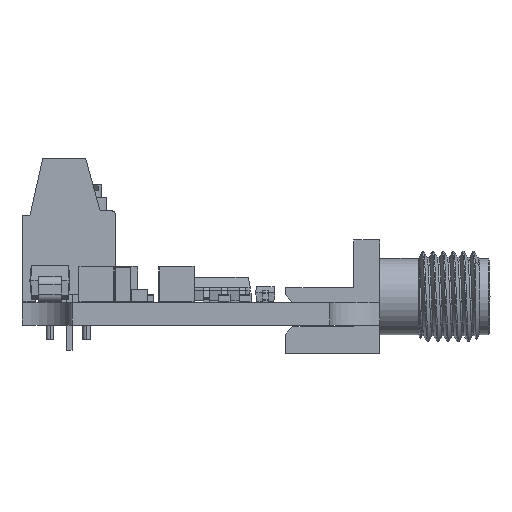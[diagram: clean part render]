
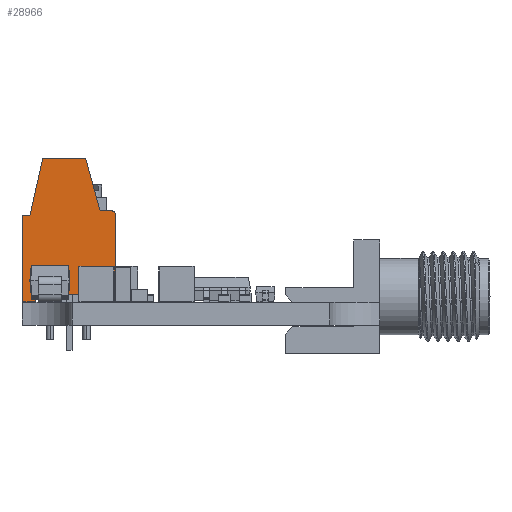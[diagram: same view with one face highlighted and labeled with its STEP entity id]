
A CAD part, left-side view. The second image highlights one B-rep face of the part: STEP entity #28966.
In plain terms, the highlighted planar face has unit normal (-1, 0, 0) as drawn and (1, 0, 0) by its records, which use the part's own axes.
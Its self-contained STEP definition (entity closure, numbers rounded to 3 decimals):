
#28966 = ADVANCED_FACE('',(#28967),#29074,.F.);
#28967 = FACE_BOUND('',#28968,.T.);
#28968 = EDGE_LOOP('',(#28969,#28979,#28987,#28995,#29003,#29011,#29019,
    #29027,#29035,#29043,#29051,#29060,#29068));
#28969 = ORIENTED_EDGE('',*,*,#28970,.F.);
#28970 = EDGE_CURVE('',#28971,#28973,#28975,.T.);
#28971 = VERTEX_POINT('',#28972);
#28972 = CARTESIAN_POINT('',(4.04,-1.85,0.));
#28973 = VERTEX_POINT('',#28974);
#28974 = CARTESIAN_POINT('',(4.04,1.15,0.));
#28975 = LINE('',#28976,#28977);
#28976 = CARTESIAN_POINT('',(4.04,-1.85,0.));
#28977 = VECTOR('',#28978,1.);
#28978 = DIRECTION('',(0.,1.,0.));
#28979 = ORIENTED_EDGE('',*,*,#28980,.F.);
#28980 = EDGE_CURVE('',#28981,#28971,#28983,.T.);
#28981 = VERTEX_POINT('',#28982);
#28982 = CARTESIAN_POINT('',(4.04,-2.75,-4.));
#28983 = LINE('',#28984,#28985);
#28984 = CARTESIAN_POINT('',(4.04,-2.75,-4.));
#28985 = VECTOR('',#28986,1.);
#28986 = DIRECTION('',(0.,0.22,0.976));
#28987 = ORIENTED_EDGE('',*,*,#28988,.F.);
#28988 = EDGE_CURVE('',#28989,#28981,#28991,.T.);
#28989 = VERTEX_POINT('',#28990);
#28990 = CARTESIAN_POINT('',(4.04,-3.25,-4.));
#28991 = LINE('',#28992,#28993);
#28992 = CARTESIAN_POINT('',(4.04,-3.25,-4.));
#28993 = VECTOR('',#28994,1.);
#28994 = DIRECTION('',(0.,1.,0.));
#28995 = ORIENTED_EDGE('',*,*,#28996,.F.);
#28996 = EDGE_CURVE('',#28997,#28989,#28999,.T.);
#28997 = VERTEX_POINT('',#28998);
#28998 = CARTESIAN_POINT('',(4.04,-3.25,-10.));
#28999 = LINE('',#29000,#29001);
#29000 = CARTESIAN_POINT('',(4.04,-3.25,-10.));
#29001 = VECTOR('',#29002,1.);
#29002 = DIRECTION('',(0.,0.,1.));
#29003 = ORIENTED_EDGE('',*,*,#29004,.F.);
#29004 = EDGE_CURVE('',#29005,#28997,#29007,.T.);
#29005 = VERTEX_POINT('',#29006);
#29006 = CARTESIAN_POINT('',(4.04,-2.35,-10.));
#29007 = LINE('',#29008,#29009);
#29008 = CARTESIAN_POINT('',(4.04,-2.35,-10.));
#29009 = VECTOR('',#29010,1.);
#29010 = DIRECTION('',(0.,-1.,0.));
#29011 = ORIENTED_EDGE('',*,*,#29012,.F.);
#29012 = EDGE_CURVE('',#29013,#29005,#29015,.T.);
#29013 = VERTEX_POINT('',#29014);
#29014 = CARTESIAN_POINT('',(4.04,-2.35,-9.5));
#29015 = LINE('',#29016,#29017);
#29016 = CARTESIAN_POINT('',(4.04,-2.35,-9.5));
#29017 = VECTOR('',#29018,1.);
#29018 = DIRECTION('',(0.,0.,-1.));
#29019 = ORIENTED_EDGE('',*,*,#29020,.F.);
#29020 = EDGE_CURVE('',#29021,#29013,#29023,.T.);
#29021 = VERTEX_POINT('',#29022);
#29022 = CARTESIAN_POINT('',(4.04,2.35,-9.5));
#29023 = LINE('',#29024,#29025);
#29024 = CARTESIAN_POINT('',(4.04,2.35,-9.5));
#29025 = VECTOR('',#29026,1.);
#29026 = DIRECTION('',(0.,-1.,0.));
#29027 = ORIENTED_EDGE('',*,*,#29028,.F.);
#29028 = EDGE_CURVE('',#29029,#29021,#29031,.T.);
#29029 = VERTEX_POINT('',#29030);
#29030 = CARTESIAN_POINT('',(4.04,2.35,-10.));
#29031 = LINE('',#29032,#29033);
#29032 = CARTESIAN_POINT('',(4.04,2.35,-10.));
#29033 = VECTOR('',#29034,1.);
#29034 = DIRECTION('',(0.,0.,1.));
#29035 = ORIENTED_EDGE('',*,*,#29036,.F.);
#29036 = EDGE_CURVE('',#29037,#29029,#29039,.T.);
#29037 = VERTEX_POINT('',#29038);
#29038 = CARTESIAN_POINT('',(4.04,3.25,-10.));
#29039 = LINE('',#29040,#29041);
#29040 = CARTESIAN_POINT('',(4.04,3.25,-10.));
#29041 = VECTOR('',#29042,1.);
#29042 = DIRECTION('',(0.,-1.,0.));
#29043 = ORIENTED_EDGE('',*,*,#29044,.F.);
#29044 = EDGE_CURVE('',#29045,#29037,#29047,.T.);
#29045 = VERTEX_POINT('',#29046);
#29046 = CARTESIAN_POINT('',(4.04,3.25,-3.95));
#29047 = LINE('',#29048,#29049);
#29048 = CARTESIAN_POINT('',(4.04,3.25,-3.95));
#29049 = VECTOR('',#29050,1.);
#29050 = DIRECTION('',(0.,0.,-1.));
#29051 = ORIENTED_EDGE('',*,*,#29052,.F.);
#29052 = EDGE_CURVE('',#29053,#29045,#29055,.T.);
#29053 = VERTEX_POINT('',#29054);
#29054 = CARTESIAN_POINT('',(4.04,2.95,-3.65));
#29055 = CIRCLE('',#29056,0.3);
#29056 = AXIS2_PLACEMENT_3D('',#29057,#29058,#29059);
#29057 = CARTESIAN_POINT('',(4.04,2.95,-3.95));
#29058 = DIRECTION('',(-1.,0.,0.));
#29059 = DIRECTION('',(0.,0.,1.));
#29060 = ORIENTED_EDGE('',*,*,#29061,.F.);
#29061 = EDGE_CURVE('',#29062,#29053,#29064,.T.);
#29062 = VERTEX_POINT('',#29063);
#29063 = CARTESIAN_POINT('',(4.04,2.15,-3.65));
#29064 = LINE('',#29065,#29066);
#29065 = CARTESIAN_POINT('',(4.04,2.15,-3.65));
#29066 = VECTOR('',#29067,1.);
#29067 = DIRECTION('',(0.,1.,0.));
#29068 = ORIENTED_EDGE('',*,*,#29069,.F.);
#29069 = EDGE_CURVE('',#28973,#29062,#29070,.T.);
#29070 = LINE('',#29071,#29072);
#29071 = CARTESIAN_POINT('',(4.04,1.15,0.));
#29072 = VECTOR('',#29073,1.);
#29073 = DIRECTION('',(0.,0.264,-0.964));
#29074 = PLANE('',#29075);
#29075 = AXIS2_PLACEMENT_3D('',#29076,#29077,#29078);
#29076 = CARTESIAN_POINT('',(4.04,0.,0.));
#29077 = DIRECTION('',(-1.,0.,0.));
#29078 = DIRECTION('',(0.,0.,1.));
